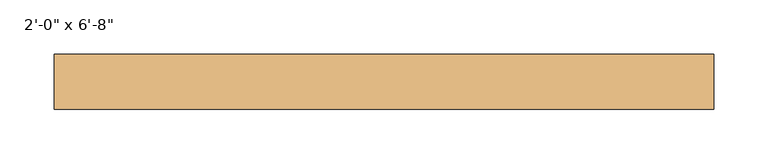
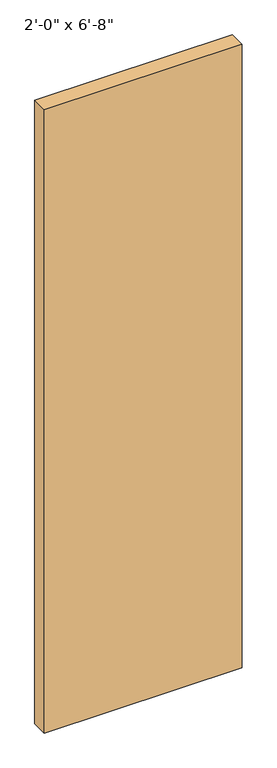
"""IFC4 building model written with IfcOpenShell, lengths in millimetres: door geometry."""

import ifcopenshell
import ifcopenshell.guid

model = None  # the IFC model being written
_history = None  # IfcOwnerHistory: only IFC2X3 demands one
_inside = {}  # id of a spatial element -> (the spatial element, [elements in it])
_under = {}  # id of a project, library or spatial element -> (it, [spatial elements below it])
_declared = {}  # id of a project -> (the project, [libraries it declares])
_typed = {}  # id of a type object -> (the type object, [elements of that type])
_made_of = {}  # id of a material, layer set ... -> (it, [elements and type objects made of it])


def new_model(schema):
    """Start an empty IFC model of exactly this schema.

    Asked for "IFC4X3", IfcOpenShell would pick the latest addendum, in which some entities
    have other attributes; the version numbers below select the first issue.
    IFC2X3 requires an IfcOwnerHistory on every rooted entity: one is made here for all.
    """
    global model, _history
    if schema == "IFC4X3":
        model = ifcopenshell.file(schema_version=(4, 3, 0, 0))
    else:
        model = ifcopenshell.file(schema=schema)
    _inside.clear()
    _under.clear()
    _declared.clear()
    _typed.clear()
    _made_of.clear()
    _history = None
    if model.schema == "IFC2X3":
        org = make("IfcOrganization", Name="unknown")
        user = make(
            "IfcPersonAndOrganization",
            ThePerson=make("IfcPerson", FamilyName="unknown"),
            TheOrganization=org,
        )
        app = make(
            "IfcApplication",
            ApplicationDeveloper=org,
            Version="unknown",
            ApplicationFullName="unknown",
            ApplicationIdentifier="unknown",
        )
        _history = make(
            "IfcOwnerHistory",
            OwningUser=user,
            OwningApplication=app,
            ChangeAction="ADDED",
            CreationDate=0,
        )
    return model


def make(cls, **values):
    """One entity of the class cls with the attributes given. An attribute that is None is left unset."""
    return model.create_entity(
        cls, **{name: value for name, value in values.items() if value is not None}
    )


def rooted(cls, **values):
    """An entity with a GlobalId (a new one), such as an element, a storey or a relation."""
    return make(cls, GlobalId=ifcopenshell.guid.new(), OwnerHistory=_history, **values)


def si_unit(unit_type, name, prefix=None):
    """IfcSIUnit, for example si_unit("LENGTHUNIT", "METRE", prefix="MILLI")."""
    return make("IfcSIUnit", UnitType=unit_type, Prefix=prefix, Name=name)


def assignment(units):
    """IfcUnitAssignment: the units of a project."""
    return None if units is None else make("IfcUnitAssignment", Units=units)


def point(xyz):
    """IfcCartesianPoint."""
    return None if xyz is None else make("IfcCartesianPoint", Coordinates=xyz)


def direction(xyz):
    """IfcDirection."""
    return None if xyz is None else make("IfcDirection", DirectionRatios=xyz)


def frame(location, z_axis=None, x_axis=None):
    """IfcAxis2Placement3D, a coordinate frame: its origin and axes. An axis left out is left unset."""
    return make(
        "IfcAxis2Placement3D",
        Location=point(location),
        Axis=direction(z_axis),
        RefDirection=direction(x_axis),
    )


def origin():
    """The frame at (0, 0, 0) with its axes left unset."""
    return frame((0.0, 0.0, 0.0))


def origin_with_axes():
    """The frame at (0, 0, 0) with the z axis (0, 0, 1) and the x axis (1, 0, 0) written out."""
    return frame((0.0, 0.0, 0.0), z_axis=(0.0, 0.0, 1.0), x_axis=(1.0, 0.0, 0.0))


def place(relative_to, where):
    """IfcLocalPlacement: puts the frame where relative to a parent placement (None: the world)."""
    return make(
        "IfcLocalPlacement", PlacementRelTo=relative_to, RelativePlacement=where
    )


def context(
    kind, dimensions, precision=None, world=None, true_north=None, identifier=None
):
    """IfcGeometricRepresentationContext, for example the 3D "Model" context."""
    return make(
        "IfcGeometricRepresentationContext",
        ContextIdentifier=identifier,
        ContextType=kind,
        CoordinateSpaceDimension=dimensions,
        Precision=precision,
        WorldCoordinateSystem=world,
        TrueNorth=true_north,
    )


def project(units=None, contexts=None):
    """IfcProject with its units and contexts."""
    return rooted(
        "IfcProject",
        Name="project",
        RepresentationContexts=contexts,
        UnitsInContext=assignment(units),
    )


def spatial(cls, under=None, at=None, **own):
    """A site, building, storey or space (cls), placed at a placement, below another one or the project."""
    s = rooted(cls, ObjectPlacement=at, **own)
    if under is not None:
        _under.setdefault(under.id(), (under, []))[1].append(s)
    return s


def polyline(points):
    """IfcPolyline through the points."""
    return make("IfcPolyline", Points=[point(p) for p in points])


def outline(outer, holes=None, kind="AREA"):
    """IfcArbitraryClosedProfileDef: a profile drawn as a closed curve; with holes, ...WithVoids."""
    if holes is None:
        return make("IfcArbitraryClosedProfileDef", ProfileType=kind, OuterCurve=outer)
    return make(
        "IfcArbitraryProfileDefWithVoids",
        ProfileType=kind,
        OuterCurve=outer,
        InnerCurves=holes,
    )


def extrude(swept, where, along, depth):
    """IfcExtrudedAreaSolid: the profile swept, set in the frame where, extruded along a direction by depth."""
    return make(
        "IfcExtrudedAreaSolid",
        SweptArea=swept,
        Position=where,
        ExtrudedDirection=direction(along),
        Depth=depth,
    )


def shape(context_of_items, identifier, shape_type, items):
    """IfcShapeRepresentation: the items that make up one representation, for example the "Body"."""
    return make(
        "IfcShapeRepresentation",
        ContextOfItems=context_of_items,
        RepresentationIdentifier=identifier,
        RepresentationType=shape_type,
        Items=items,
    )


def source(mapping_origin, context_of_items, identifier, shape_type, items):
    """IfcRepresentationMap: a shape defined once, which mapped items show again and again."""
    return make(
        "IfcRepresentationMap",
        MappingOrigin=mapping_origin,
        MappedRepresentation=shape(context_of_items, identifier, shape_type, items),
    )


def transform(
    local_origin,
    x_axis=None,
    y_axis=None,
    z_axis=None,
    scale=None,
    scale2=None,
    scale3=None,
    uniform=True,
):
    """IfcCartesianTransformationOperator3D, or its non-uniform kind. x_axis, y_axis, z_axis: its Axis1, 2, 3."""
    if uniform:
        return make(
            "IfcCartesianTransformationOperator3D",
            Axis1=direction(x_axis),
            Axis2=direction(y_axis),
            LocalOrigin=point(local_origin),
            Scale=scale,
            Axis3=direction(z_axis),
        )
    return make(
        "IfcCartesianTransformationOperator3DnonUniform",
        Axis1=direction(x_axis),
        Axis2=direction(y_axis),
        LocalOrigin=point(local_origin),
        Scale=scale,
        Axis3=direction(z_axis),
        Scale2=scale2,
        Scale3=scale3,
    )


def mapped(mapping_source, mapping_target):
    """IfcMappedItem: shows the shape of a source again, moved by a transform."""
    return make(
        "IfcMappedItem", MappingSource=mapping_source, MappingTarget=mapping_target
    )


def made_of(thing, what):
    """Note that an element or type object is made of a material, layer set ...; save() writes the relation."""
    if what is not None:
        _made_of.setdefault(what.id(), (what, []))[1].append(thing)
    return thing


def element(
    cls,
    number,
    at=None,
    inside=None,
    cuts=None,
    type_object=None,
    material=None,
    context=None,
    identifier="Body",
    shape_type=None,
    held_by="IfcProductDefinitionShape",
    body=None,
    shapes=None,
    **own,
):
    """One element of the class cls, such as IfcWall. Its Tag is "e" and its number.

    at: its placement. inside: the storey or other place that contains it. cuts: it is an
    opening in that element (IfcRelVoidsElement). A single representation is given by context,
    identifier, shape_type and body (its items); several are given by shapes. held_by: the class
    of the entity that holds the representations. save() writes the other relations.
    """
    e = rooted(cls, Tag="e%d" % number, ObjectPlacement=at, **own)
    if body is not None:
        shapes = [shape(context, identifier, shape_type, body)]
    if shapes is not None:
        e.Representation = make(held_by, Representations=shapes)
    if inside is not None:
        _inside.setdefault(inside.id(), (inside, []))[1].append(e)
    if cuts is not None:
        rooted(
            "IfcRelVoidsElement", RelatingBuildingElement=cuts, RelatedOpeningElement=e
        )
    if type_object is not None:
        _typed.setdefault(type_object.id(), (type_object, []))[1].append(e)
    return made_of(e, material)


def aggregate(whole, parts):
    """IfcRelAggregates: a whole, such as a stair, and the parts it consists of."""
    return rooted("IfcRelAggregates", RelatingObject=whole, RelatedObjects=parts)


def save(model, path):
    """Write the relations noted so far, then the file.

    IfcRelAggregates (storeys below a building ...), IfcRelContainedInSpatialStructure (elements
    in a storey), IfcRelDefinesByType, IfcRelAssociatesMaterial and IfcRelDeclares: one each for
    every whole, place, type object, material and project.
    """
    for whole, parts in _under.values():
        aggregate(whole, parts)
    for where, things in _inside.values():
        rooted(
            "IfcRelContainedInSpatialStructure",
            RelatedElements=things,
            RelatingStructure=where,
        )
    for kind, things in _typed.values():
        rooted("IfcRelDefinesByType", RelatedObjects=things, RelatingType=kind)
    for what, things in _made_of.values():
        rooted("IfcRelAssociatesMaterial", RelatedObjects=things, RelatingMaterial=what)
    for by, libraries in _declared.values():
        rooted("IfcRelDeclares", RelatingContext=by, RelatedDefinitions=libraries)
    model.write(path)


def door_c73edc89(model_context):
    return source(origin(), model_context, "Body", "SweptSolid", [
        extrude(outline(polyline([(304.8, -31.5515625), (304.8, -82.55), (-304.8, -82.55), (-304.8, -31.5515625), (304.8, -31.5515625)])), origin_with_axes(), (0.0, 0.0, 1.0), 2032.0),
    ])


if __name__ == "__main__":
    model = new_model("IFC4")
    model_context = context("Model", 3, world=origin())
    ifc_project = project(units=[si_unit("LENGTHUNIT", "METRE", prefix="MILLI")], contexts=[model_context])
    site = spatial("IfcSite", under=ifc_project)
    building = spatial("IfcBuilding", under=site)
    placement = place(None, origin())
    door_shape = door_c73edc89(model_context)
    element("IfcDoor", 1, ObjectType="Planitar - Single Door_Flush Panel : 2'-0\" x 6'-8\"", at=placement, inside=building, context=model_context, shape_type="MappedRepresentation", body=[
        mapped(door_shape, transform((0.0, 0.0, 0.0), x_axis=(1.0, 0.0, 0.0), y_axis=(0.0, 1.0, 0.0), z_axis=(0.0, 0.0, 1.0))),
    ])
    save(model, "model.ifc")
